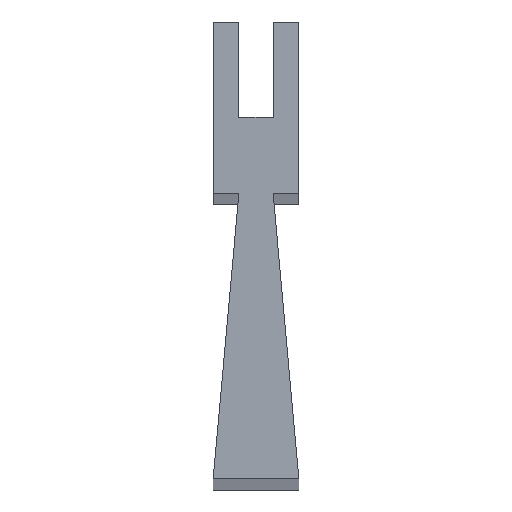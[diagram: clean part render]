
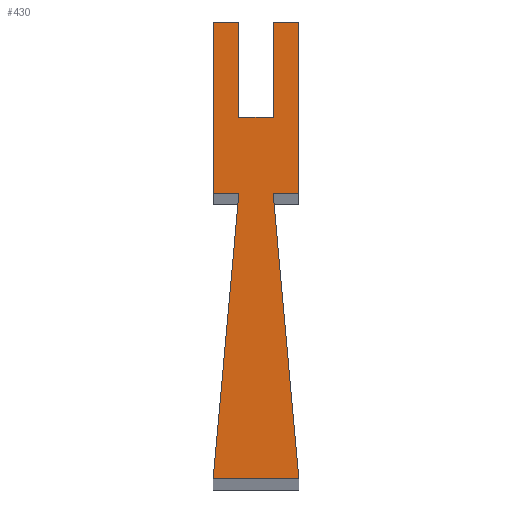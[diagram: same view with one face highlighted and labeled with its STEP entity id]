
A CAD part, top view. The second image highlights one B-rep face of the part: STEP entity #430.
In plain terms, the highlighted planar face has unit normal (0, 0, 1).
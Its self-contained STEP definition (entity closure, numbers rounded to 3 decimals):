
#4 = CARTESIAN_POINT ( 'NONE',  ( -4.5, -9., 339. ) ) ;
#6 = CARTESIAN_POINT ( 'NONE',  ( -1.8, -9., 339. ) ) ;
#11 = VECTOR ( 'NONE', #151, 1000. ) ;
#18 = LINE ( 'NONE', #154, #203 ) ;
#19 = VERTEX_POINT ( 'NONE', #466 ) ;
#20 = FACE_OUTER_BOUND ( 'NONE', #33, .T. ) ;
#25 = VECTOR ( 'NONE', #346, 1000. ) ;
#29 = VERTEX_POINT ( 'NONE', #279 ) ;
#33 = EDGE_LOOP ( 'NONE', ( #375, #180, #73, #305, #35, #163, #442, #100, #320, #172, #278, #136 ) ) ;
#35 = ORIENTED_EDGE ( 'NONE', *, *, #37, .T. ) ;
#37 = EDGE_CURVE ( 'NONE', #155, #441, #58, .T. ) ;
#48 = DIRECTION ( 'NONE',  ( 1., 0., 0. ) ) ;
#50 = CARTESIAN_POINT ( 'NONE',  ( -4.5, 9., 339. ) ) ;
#58 = LINE ( 'NONE', #349, #140 ) ;
#64 = LINE ( 'NONE', #86, #119 ) ;
#66 = CARTESIAN_POINT ( 'NONE',  ( 1.8, 9., 339. ) ) ;
#73 = ORIENTED_EDGE ( 'NONE', *, *, #202, .T. ) ;
#75 = DIRECTION ( 'NONE',  ( 1., 0., 0. ) ) ;
#80 = LINE ( 'NONE', #50, #147 ) ;
#82 = VERTEX_POINT ( 'NONE', #137 ) ;
#84 = DIRECTION ( 'NONE',  ( -1., 0., 0. ) ) ;
#86 = CARTESIAN_POINT ( 'NONE',  ( -1.8, -9., 339. ) ) ;
#95 = CARTESIAN_POINT ( 'NONE',  ( -4.5, 9., 339. ) ) ;
#97 = CARTESIAN_POINT ( 'NONE',  ( 1.8, -9., 339. ) ) ;
#100 = ORIENTED_EDGE ( 'NONE', *, *, #452, .T. ) ;
#111 = LINE ( 'NONE', #66, #25 ) ;
#119 = VECTOR ( 'NONE', #184, 1000. ) ;
#126 = DIRECTION ( 'NONE',  ( 0., 1., 0. ) ) ;
#130 = LINE ( 'NONE', #195, #367 ) ;
#136 = ORIENTED_EDGE ( 'NONE', *, *, #292, .T. ) ;
#137 = CARTESIAN_POINT ( 'NONE',  ( -1.8, 9., 339. ) ) ;
#140 = VECTOR ( 'NONE', #350, 1000. ) ;
#141 = VERTEX_POINT ( 'NONE', #396 ) ;
#147 = VECTOR ( 'NONE', #84, 1000. ) ;
#151 = DIRECTION ( 'NONE',  ( -1., 0., 0. ) ) ;
#154 = CARTESIAN_POINT ( 'NONE',  ( 4.5, 9., 339. ) ) ;
#155 = VERTEX_POINT ( 'NONE', #224 ) ;
#159 = DIRECTION ( 'NONE',  ( 1., 0., 0. ) ) ;
#163 = ORIENTED_EDGE ( 'NONE', *, *, #378, .T. ) ;
#165 = VECTOR ( 'NONE', #159, 1000. ) ;
#171 = CARTESIAN_POINT ( 'NONE',  ( -4.5, -9., 339. ) ) ;
#172 = ORIENTED_EDGE ( 'NONE', *, *, #366, .T. ) ;
#180 = ORIENTED_EDGE ( 'NONE', *, *, #226, .T. ) ;
#184 = DIRECTION ( 'NONE',  ( -0.09, -0.996, 0. ) ) ;
#195 = CARTESIAN_POINT ( 'NONE',  ( -4.5, 9., 339. ) ) ;
#196 = EDGE_CURVE ( 'NONE', #421, #82, #239, .T. ) ;
#197 = EDGE_CURVE ( 'NONE', #413, #155, #404, .T. ) ;
#202 = EDGE_CURVE ( 'NONE', #218, #413, #64, .T. ) ;
#203 = VECTOR ( 'NONE', #126, 1000. ) ;
#208 = VECTOR ( 'NONE', #75, 1000. ) ;
#218 = VERTEX_POINT ( 'NONE', #6 ) ;
#219 = DIRECTION ( 'NONE',  ( 0., 1., 0. ) ) ;
#221 = CARTESIAN_POINT ( 'NONE',  ( -4.5, -39., 339. ) ) ;
#223 = LINE ( 'NONE', #414, #314 ) ;
#224 = CARTESIAN_POINT ( 'NONE',  ( 4.5, -39., 339. ) ) ;
#226 = EDGE_CURVE ( 'NONE', #381, #218, #319, .T. ) ;
#234 = DIRECTION ( 'NONE',  ( -1., 0., 0. ) ) ;
#237 = DIRECTION ( 'NONE',  ( 0., -1., 0. ) ) ;
#239 = LINE ( 'NONE', #432, #345 ) ;
#241 = AXIS2_PLACEMENT_3D ( 'NONE', #95, #437, #48 ) ;
#246 = VERTEX_POINT ( 'NONE', #249 ) ;
#249 = CARTESIAN_POINT ( 'NONE',  ( 1.8, -1., 339. ) ) ;
#265 = CARTESIAN_POINT ( 'NONE',  ( 1.8, -9., 339. ) ) ;
#278 = ORIENTED_EDGE ( 'NONE', *, *, #196, .T. ) ;
#279 = CARTESIAN_POINT ( 'NONE',  ( -4.5, 9., 339. ) ) ;
#280 = LINE ( 'NONE', #371, #11 ) ;
#291 = CARTESIAN_POINT ( 'NONE',  ( -4.5, -39., 339. ) ) ;
#292 = EDGE_CURVE ( 'NONE', #82, #29, #80, .T. ) ;
#296 = DIRECTION ( 'NONE',  ( 1., 0., 0. ) ) ;
#305 = ORIENTED_EDGE ( 'NONE', *, *, #197, .T. ) ;
#314 = VECTOR ( 'NONE', #234, 1000. ) ;
#319 = LINE ( 'NONE', #4, #384 ) ;
#320 = ORIENTED_EDGE ( 'NONE', *, *, #383, .T. ) ;
#345 = VECTOR ( 'NONE', #219, 1000. ) ;
#346 = DIRECTION ( 'NONE',  ( 0., -1., 0. ) ) ;
#349 = CARTESIAN_POINT ( 'NONE',  ( 4.5, -39., 339. ) ) ;
#350 = DIRECTION ( 'NONE',  ( -0.09, 0.996, 0. ) ) ;
#366 = EDGE_CURVE ( 'NONE', #246, #421, #223, .T. ) ;
#367 = VECTOR ( 'NONE', #237, 1000. ) ;
#371 = CARTESIAN_POINT ( 'NONE',  ( 1.8, 9., 339. ) ) ;
#373 = EDGE_CURVE ( 'NONE', #29, #381, #130, .T. ) ;
#375 = ORIENTED_EDGE ( 'NONE', *, *, #373, .T. ) ;
#378 = EDGE_CURVE ( 'NONE', #441, #19, #460, .T. ) ;
#381 = VERTEX_POINT ( 'NONE', #171 ) ;
#383 = EDGE_CURVE ( 'NONE', #385, #246, #111, .T. ) ;
#384 = VECTOR ( 'NONE', #296, 1000. ) ;
#385 = VERTEX_POINT ( 'NONE', #457 ) ;
#391 = CARTESIAN_POINT ( 'NONE',  ( -1.8, -1., 339. ) ) ;
#396 = CARTESIAN_POINT ( 'NONE',  ( 4.5, 9., 339. ) ) ;
#404 = LINE ( 'NONE', #221, #208 ) ;
#413 = VERTEX_POINT ( 'NONE', #291 ) ;
#414 = CARTESIAN_POINT ( 'NONE',  ( -1.8, -1., 339. ) ) ;
#421 = VERTEX_POINT ( 'NONE', #391 ) ;
#430 = ADVANCED_FACE ( 'NONE', ( #20 ), #443, .T. ) ;
#432 = CARTESIAN_POINT ( 'NONE',  ( -1.8, 9., 339. ) ) ;
#437 = DIRECTION ( 'NONE',  ( 0., 0., 1. ) ) ;
#441 = VERTEX_POINT ( 'NONE', #265 ) ;
#442 = ORIENTED_EDGE ( 'NONE', *, *, #458, .T. ) ;
#443 = PLANE ( 'NONE',  #241 ) ;
#452 = EDGE_CURVE ( 'NONE', #141, #385, #280, .T. ) ;
#457 = CARTESIAN_POINT ( 'NONE',  ( 1.8, 9., 339. ) ) ;
#458 = EDGE_CURVE ( 'NONE', #19, #141, #18, .T. ) ;
#460 = LINE ( 'NONE', #97, #165 ) ;
#466 = CARTESIAN_POINT ( 'NONE',  ( 4.5, -9., 339. ) ) ;
